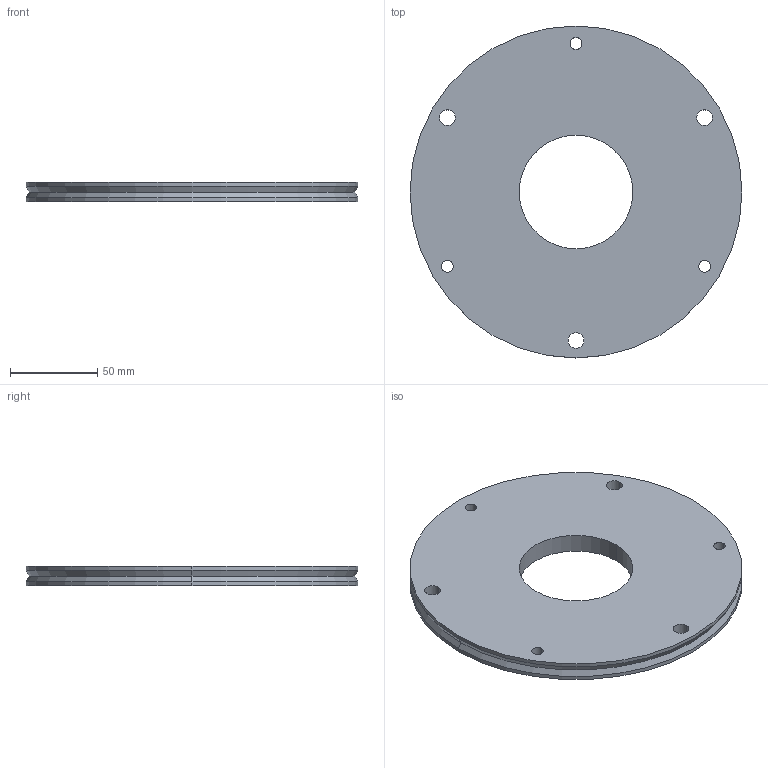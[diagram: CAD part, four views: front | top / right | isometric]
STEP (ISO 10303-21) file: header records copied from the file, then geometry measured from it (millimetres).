
FILE_DESCRIPTION (( 'STEP AP214' ), '1' );
FILE_NAME ('0738 Flansch.STEP', '2025-03-26T12:31:34', ( '' ), ( '' ), 'SwSTEP 2.0', 'SolidWorks 2022', '' );
FILE_SCHEMA (( 'AUTOMOTIVE_DESIGN' ));
Length unit declared in the file: millimetre
Products named in the file (1): 0738 Flansch
Bounding box: 190 x 190 x 11 mm (x, y, z)
Volume: 268592.4 mm3; surface area: 60389.3 mm2
Topology: 1 solids, 1 shells, 24 faces, 60 edges, 38 vertices
Faces by surface type: cylinder 18, cone 4, plane 2
Entity records: 862 total; most frequent: DIRECTION 148, CARTESIAN_POINT 123, ORIENTED_EDGE 120, AXIS2_PLACEMENT_3D 63, EDGE_CURVE 60, CIRCLE 38, VERTEX_POINT 38, EDGE_LOOP 38
